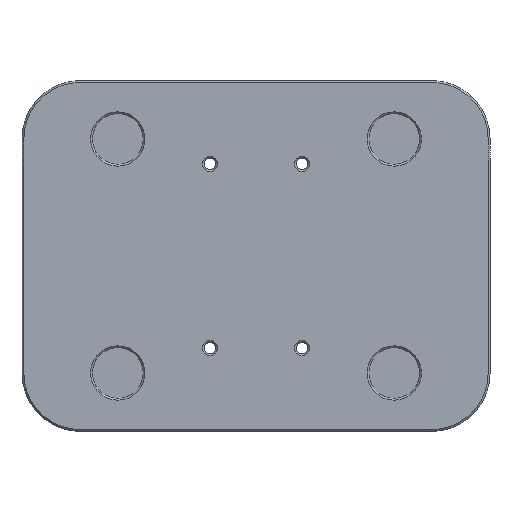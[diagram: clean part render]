
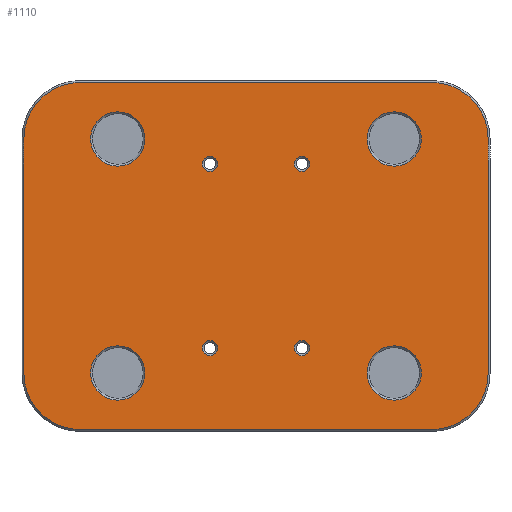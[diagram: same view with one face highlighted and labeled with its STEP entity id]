
A CAD part, front view. The second image highlights one B-rep face of the part: STEP entity #1110.
In plain terms, the highlighted planar face has unit normal (0, -1, 0).
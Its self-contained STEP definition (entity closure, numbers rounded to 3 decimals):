
#41=FACE_BOUND('',#387,.T.);
#42=FACE_BOUND('',#388,.T.);
#43=FACE_BOUND('',#389,.T.);
#44=FACE_BOUND('',#390,.T.);
#45=FACE_BOUND('',#391,.T.);
#46=FACE_BOUND('',#392,.T.);
#47=FACE_BOUND('',#393,.T.);
#48=FACE_BOUND('',#394,.T.);
#142=LINE('',#1875,#236);
#143=LINE('',#1879,#237);
#144=LINE('',#1883,#238);
#145=LINE('',#1886,#239);
#236=VECTOR('',#1532,10.);
#237=VECTOR('',#1535,10.);
#238=VECTOR('',#1538,10.);
#239=VECTOR('',#1541,10.);
#306=FACE_OUTER_BOUND('',#386,.T.);
#386=EDGE_LOOP('',(#927,#928,#929,#930,#931,#932,#933,#934));
#387=EDGE_LOOP('',(#935));
#388=EDGE_LOOP('',(#936));
#389=EDGE_LOOP('',(#937));
#390=EDGE_LOOP('',(#938));
#391=EDGE_LOOP('',(#939));
#392=EDGE_LOOP('',(#940));
#393=EDGE_LOOP('',(#941));
#394=EDGE_LOOP('',(#942));
#461=CIRCLE('',#1236,5.899);
#463=CIRCLE('',#1239,12.3);
#464=CIRCLE('',#1240,12.3);
#465=CIRCLE('',#1241,12.3);
#466=CIRCLE('',#1242,12.3);
#467=CIRCLE('',#1243,5.899);
#468=CIRCLE('',#1244,5.899);
#469=CIRCLE('',#1245,1.665);
#470=CIRCLE('',#1246,1.665);
#471=CIRCLE('',#1247,1.665);
#472=CIRCLE('',#1248,1.665);
#473=CIRCLE('',#1249,5.899);
#549=VERTEX_POINT('',#1865);
#551=VERTEX_POINT('',#1871);
#552=VERTEX_POINT('',#1872);
#553=VERTEX_POINT('',#1874);
#554=VERTEX_POINT('',#1876);
#555=VERTEX_POINT('',#1878);
#556=VERTEX_POINT('',#1880);
#557=VERTEX_POINT('',#1882);
#558=VERTEX_POINT('',#1884);
#559=VERTEX_POINT('',#1887);
#560=VERTEX_POINT('',#1889);
#561=VERTEX_POINT('',#1891);
#562=VERTEX_POINT('',#1893);
#563=VERTEX_POINT('',#1895);
#564=VERTEX_POINT('',#1897);
#565=VERTEX_POINT('',#1899);
#681=EDGE_CURVE('',#549,#549,#461,.T.);
#684=EDGE_CURVE('',#551,#552,#463,.T.);
#685=EDGE_CURVE('',#553,#551,#142,.T.);
#686=EDGE_CURVE('',#554,#553,#464,.T.);
#687=EDGE_CURVE('',#555,#554,#143,.T.);
#688=EDGE_CURVE('',#556,#555,#465,.T.);
#689=EDGE_CURVE('',#557,#556,#144,.T.);
#690=EDGE_CURVE('',#558,#557,#466,.T.);
#691=EDGE_CURVE('',#552,#558,#145,.T.);
#692=EDGE_CURVE('',#559,#559,#467,.T.);
#693=EDGE_CURVE('',#560,#560,#468,.T.);
#694=EDGE_CURVE('',#561,#561,#469,.T.);
#695=EDGE_CURVE('',#562,#562,#470,.T.);
#696=EDGE_CURVE('',#563,#563,#471,.T.);
#697=EDGE_CURVE('',#564,#564,#472,.T.);
#698=EDGE_CURVE('',#565,#565,#473,.T.);
#927=ORIENTED_EDGE('',*,*,#684,.F.);
#928=ORIENTED_EDGE('',*,*,#685,.F.);
#929=ORIENTED_EDGE('',*,*,#686,.F.);
#930=ORIENTED_EDGE('',*,*,#687,.F.);
#931=ORIENTED_EDGE('',*,*,#688,.F.);
#932=ORIENTED_EDGE('',*,*,#689,.F.);
#933=ORIENTED_EDGE('',*,*,#690,.F.);
#934=ORIENTED_EDGE('',*,*,#691,.F.);
#935=ORIENTED_EDGE('',*,*,#692,.F.);
#936=ORIENTED_EDGE('',*,*,#693,.F.);
#937=ORIENTED_EDGE('',*,*,#694,.F.);
#938=ORIENTED_EDGE('',*,*,#695,.F.);
#939=ORIENTED_EDGE('',*,*,#696,.F.);
#940=ORIENTED_EDGE('',*,*,#697,.F.);
#941=ORIENTED_EDGE('',*,*,#698,.F.);
#942=ORIENTED_EDGE('',*,*,#681,.F.);
#1055=PLANE('',#1238);
#1110=ADVANCED_FACE('',(#306,#41,#42,#43,#44,#45,#46,#47,#48),#1055,.F.);
#1236=AXIS2_PLACEMENT_3D('',#1866,#1523,#1524);
#1238=AXIS2_PLACEMENT_3D('',#1870,#1528,#1529);
#1239=AXIS2_PLACEMENT_3D('',#1873,#1530,#1531);
#1240=AXIS2_PLACEMENT_3D('',#1877,#1533,#1534);
#1241=AXIS2_PLACEMENT_3D('',#1881,#1536,#1537);
#1242=AXIS2_PLACEMENT_3D('',#1885,#1539,#1540);
#1243=AXIS2_PLACEMENT_3D('',#1888,#1542,#1543);
#1244=AXIS2_PLACEMENT_3D('',#1890,#1544,#1545);
#1245=AXIS2_PLACEMENT_3D('',#1892,#1546,#1547);
#1246=AXIS2_PLACEMENT_3D('',#1894,#1548,#1549);
#1247=AXIS2_PLACEMENT_3D('',#1896,#1550,#1551);
#1248=AXIS2_PLACEMENT_3D('',#1898,#1552,#1553);
#1249=AXIS2_PLACEMENT_3D('',#1900,#1554,#1555);
#1523=DIRECTION('center_axis',(0.,-1.,0.));
#1524=DIRECTION('ref_axis',(0.,0.,-1.));
#1528=DIRECTION('center_axis',(0.,1.,0.));
#1529=DIRECTION('ref_axis',(1.,0.,0.));
#1530=DIRECTION('center_axis',(0.,1.,0.));
#1531=DIRECTION('ref_axis',(0.,0.,-1.));
#1532=DIRECTION('',(-1.,0.,0.));
#1533=DIRECTION('center_axis',(0.,1.,0.));
#1534=DIRECTION('ref_axis',(1.,0.,0.));
#1535=DIRECTION('',(0.,0.,-1.));
#1536=DIRECTION('center_axis',(0.,1.,0.));
#1537=DIRECTION('ref_axis',(0.,0.,1.));
#1538=DIRECTION('',(1.,0.,0.));
#1539=DIRECTION('center_axis',(0.,1.,0.));
#1540=DIRECTION('ref_axis',(-1.,0.,0.));
#1541=DIRECTION('',(0.,0.,1.));
#1542=DIRECTION('center_axis',(0.,-1.,0.));
#1543=DIRECTION('ref_axis',(0.,0.,-1.));
#1544=DIRECTION('center_axis',(0.,-1.,0.));
#1545=DIRECTION('ref_axis',(0.,0.,-1.));
#1546=DIRECTION('center_axis',(0.,-1.,0.));
#1547=DIRECTION('ref_axis',(0.,0.,-1.));
#1548=DIRECTION('center_axis',(0.,-1.,0.));
#1549=DIRECTION('ref_axis',(0.,0.,-1.));
#1550=DIRECTION('center_axis',(0.,-1.,0.));
#1551=DIRECTION('ref_axis',(0.,0.,-1.));
#1552=DIRECTION('center_axis',(0.,-1.,0.));
#1553=DIRECTION('ref_axis',(0.,0.,-1.));
#1554=DIRECTION('center_axis',(0.,-1.,0.));
#1555=DIRECTION('ref_axis',(0.,0.,-1.));
#1865=CARTESIAN_POINT('',(32.522,0.,-14.111));
#1866=CARTESIAN_POINT('Origin',(32.522,0.,-20.01));
#1870=CARTESIAN_POINT('Origin',(2.522,0.,5.39));
#1871=CARTESIAN_POINT('',(-35.578,0.,-32.31));
#1872=CARTESIAN_POINT('',(-47.878,0.,-20.01));
#1873=CARTESIAN_POINT('Origin',(-35.578,0.,-20.01));
#1874=CARTESIAN_POINT('',(40.622,0.,-32.31));
#1875=CARTESIAN_POINT('',(21.572,0.,-32.31));
#1876=CARTESIAN_POINT('',(52.922,0.,-20.01));
#1877=CARTESIAN_POINT('Origin',(40.622,0.,-20.01));
#1878=CARTESIAN_POINT('',(52.922,0.,30.79));
#1879=CARTESIAN_POINT('',(52.922,0.,18.09));
#1880=CARTESIAN_POINT('',(40.622,0.,43.09));
#1881=CARTESIAN_POINT('Origin',(40.622,0.,30.79));
#1882=CARTESIAN_POINT('',(-35.578,0.,43.09));
#1883=CARTESIAN_POINT('',(-16.528,0.,43.09));
#1884=CARTESIAN_POINT('',(-47.878,0.,30.79));
#1885=CARTESIAN_POINT('Origin',(-35.578,0.,30.79));
#1886=CARTESIAN_POINT('',(-47.878,0.,-7.31));
#1887=CARTESIAN_POINT('',(-27.478,0.,-14.111));
#1888=CARTESIAN_POINT('Origin',(-27.478,0.,-20.01));
#1889=CARTESIAN_POINT('',(32.522,0.,36.689));
#1890=CARTESIAN_POINT('Origin',(32.522,0.,30.79));
#1891=CARTESIAN_POINT('',(12.522,0.,-12.946));
#1892=CARTESIAN_POINT('Origin',(12.522,0.,-14.61));
#1893=CARTESIAN_POINT('',(-7.478,0.,-12.946));
#1894=CARTESIAN_POINT('Origin',(-7.478,0.,-14.61));
#1895=CARTESIAN_POINT('',(12.522,0.,27.054));
#1896=CARTESIAN_POINT('Origin',(12.522,0.,25.39));
#1897=CARTESIAN_POINT('',(-7.478,0.,27.054));
#1898=CARTESIAN_POINT('Origin',(-7.478,0.,25.39));
#1899=CARTESIAN_POINT('',(-27.478,0.,36.689));
#1900=CARTESIAN_POINT('Origin',(-27.478,0.,30.79));
